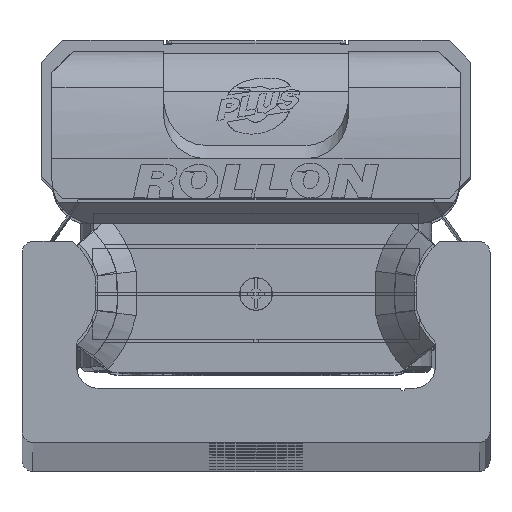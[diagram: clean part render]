
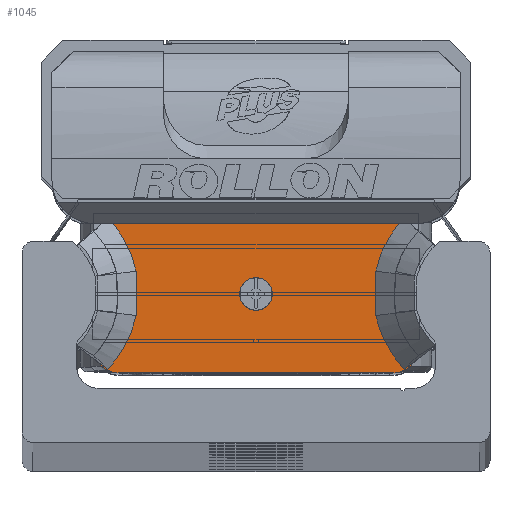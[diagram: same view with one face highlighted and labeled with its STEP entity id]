
A CAD part, top view. The second image highlights one B-rep face of the part: STEP entity #1045.
In plain terms, the highlighted planar face has unit normal (0, 0, 1) as drawn and (0, 0, -1) by its records, which use the part's own axes.
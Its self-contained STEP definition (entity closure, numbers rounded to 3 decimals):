
#1045 = ADVANCED_FACE( '', ( #2594, #2595 ), #2596, .F. );
#2594 = FACE_BOUND( '', #4878, .T. );
#2595 = FACE_OUTER_BOUND( '', #4879, .T. );
#2596 = PLANE( '', #4880 );
#4878 = EDGE_LOOP( '', ( #7892 ) );
#4879 = EDGE_LOOP( '', ( #7893, #7894, #7895, #7896, #7897, #7898, #7899, #7900, #7901, #7902, #7903, #7904 ) );
#4880 = AXIS2_PLACEMENT_3D( '', #7905, #7906, #7907 );
#7892 = ORIENTED_EDGE( '', *, *, #13350, .T. );
#7893 = ORIENTED_EDGE( '', *, *, #13115, .T. );
#7894 = ORIENTED_EDGE( '', *, *, #13081, .F. );
#7895 = ORIENTED_EDGE( '', *, *, #13351, .T. );
#7896 = ORIENTED_EDGE( '', *, *, #13352, .F. );
#7897 = ORIENTED_EDGE( '', *, *, #13353, .T. );
#7898 = ORIENTED_EDGE( '', *, *, #13354, .T. );
#7899 = ORIENTED_EDGE( '', *, *, #13355, .T. );
#7900 = ORIENTED_EDGE( '', *, *, #13356, .T. );
#7901 = ORIENTED_EDGE( '', *, *, #12994, .T. );
#7902 = ORIENTED_EDGE( '', *, *, #13357, .T. );
#7903 = ORIENTED_EDGE( '', *, *, #13358, .T. );
#7904 = ORIENTED_EDGE( '', *, *, #13359, .T. );
#7905 = CARTESIAN_POINT( '', ( 14.9, 7.35, -13.25 ) );
#7906 = DIRECTION( '', ( 0., 0., 1. ) );
#7907 = DIRECTION( '', ( 1., 0., 0. ) );
#12994 = EDGE_CURVE( '', #15454, #15452, #15455, .T. );
#13081 = EDGE_CURVE( '', #15608, #15610, #15611, .T. );
#13115 = EDGE_CURVE( '', #15667, #15610, #15668, .T. );
#13350 = EDGE_CURVE( '', #16074, #16074, #16075, .T. );
#13351 = EDGE_CURVE( '', #15608, #16076, #16077, .T. );
#13352 = EDGE_CURVE( '', #16078, #16076, #16079, .T. );
#13353 = EDGE_CURVE( '', #16078, #16080, #16081, .T. );
#13354 = EDGE_CURVE( '', #16080, #16082, #16083, .T. );
#13355 = EDGE_CURVE( '', #16082, #16084, #16085, .T. );
#13356 = EDGE_CURVE( '', #16084, #15454, #16086, .T. );
#13357 = EDGE_CURVE( '', #15452, #16087, #16088, .T. );
#13358 = EDGE_CURVE( '', #16087, #16089, #16090, .T. );
#13359 = EDGE_CURVE( '', #16089, #15667, #16091, .T. );
#15452 = VERTEX_POINT( '', #18986 );
#15454 = VERTEX_POINT( '', #18991 );
#15455 = LINE( '', #18992, #18993 );
#15608 = VERTEX_POINT( '', #19216 );
#15610 = VERTEX_POINT( '', #19219 );
#15611 = CIRCLE( '', #19220, 2.5 );
#15667 = VERTEX_POINT( '', #19290 );
#15668 = B_SPLINE_CURVE_WITH_KNOTS( '', 1, ( #19291, #19292 ), .UNSPECIFIED., .F., .F., ( 2, 2 ), ( 0., 1. ), .UNSPECIFIED. );
#16074 = VERTEX_POINT( '', #19880 );
#16075 = CIRCLE( '', #19881, 1.5 );
#16076 = VERTEX_POINT( '', #19882 );
#16077 = LINE( '', #19883, #19884 );
#16078 = VERTEX_POINT( '', #19885 );
#16079 = CIRCLE( '', #19886, 2.5 );
#16080 = VERTEX_POINT( '', #19887 );
#16081 = B_SPLINE_CURVE_WITH_KNOTS( '', 1, ( #19888, #19889 ), .UNSPECIFIED., .F., .F., ( 2, 2 ), ( 0., 1. ), .UNSPECIFIED. );
#16082 = VERTEX_POINT( '', #19890 );
#16083 = B_SPLINE_CURVE_WITH_KNOTS( '', 2, ( #19891, #19892, #19893, #19894, #19895 ), .UNSPECIFIED., .F., .F., ( 3, 2, 3 ), ( 0., 0.5, 1. ), .UNSPECIFIED. );
#16084 = VERTEX_POINT( '', #19896 );
#16085 = B_SPLINE_CURVE_WITH_KNOTS( '', 2, ( #19897, #19898, #19899 ), .UNSPECIFIED., .F., .F., ( 3, 3 ), ( 0., 1. ), .UNSPECIFIED. );
#16086 = B_SPLINE_CURVE_WITH_KNOTS( '', 2, ( #19900, #19901, #19902, #19903, #19904 ), .UNSPECIFIED., .F., .F., ( 3, 2, 3 ), ( 0., 0.5, 0.868 ), .UNSPECIFIED. );
#16087 = VERTEX_POINT( '', #19905 );
#16088 = B_SPLINE_CURVE_WITH_KNOTS( '', 2, ( #19906, #19907, #19908, #19909, #19910 ), .UNSPECIFIED., .F., .F., ( 3, 2, 3 ), ( 0.133, 0.5, 1. ), .UNSPECIFIED. );
#16089 = VERTEX_POINT( '', #19911 );
#16090 = B_SPLINE_CURVE_WITH_KNOTS( '', 2, ( #19912, #19913, #19914 ), .UNSPECIFIED., .F., .F., ( 3, 3 ), ( 0., 1. ), .UNSPECIFIED. );
#16091 = B_SPLINE_CURVE_WITH_KNOTS( '', 2, ( #19915, #19916, #19917, #19918, #19919 ), .UNSPECIFIED., .F., .F., ( 3, 2, 3 ), ( 0., 0.5, 1. ), .UNSPECIFIED. );
#18986 = CARTESIAN_POINT( '', ( 13.12, 6.4, -13.25 ) );
#18991 = CARTESIAN_POINT( '', ( -13.119, 6.4, -13.25 ) );
#18992 = CARTESIAN_POINT( '', ( 14.9, 6.4, -13.25 ) );
#18993 = VECTOR( '', #23464, 1000. );
#19216 = CARTESIAN_POINT( '', ( 12.58, -7.3, -13.25 ) );
#19219 = CARTESIAN_POINT( '', ( 14.906, -5.717, -13.25 ) );
#19220 = AXIS2_PLACEMENT_3D( '', #23587, #23588, #23589 );
#19290 = CARTESIAN_POINT( '', ( 13.628, -6.965, -13.25 ) );
#19291 = CARTESIAN_POINT( '', ( 13.628, -6.965, -13.25 ) );
#19292 = CARTESIAN_POINT( '', ( 14.9, -5.728, -13.25 ) );
#19880 = CARTESIAN_POINT( '', ( 1.5, -0.05, -13.25 ) );
#19881 = AXIS2_PLACEMENT_3D( '', #23977, #23978, #23979 );
#19882 = CARTESIAN_POINT( '', ( -12.58, -7.3, -13.25 ) );
#19883 = CARTESIAN_POINT( '', ( 12.58, -7.3, -13.25 ) );
#19884 = VECTOR( '', #23980, 1000. );
#19885 = CARTESIAN_POINT( '', ( -14.904, -5.718, -13.25 ) );
#19886 = AXIS2_PLACEMENT_3D( '', #23981, #23982, #23983 );
#19887 = CARTESIAN_POINT( '', ( -13.628, -6.965, -13.25 ) );
#19888 = CARTESIAN_POINT( '', ( -14.915, -5.713, -13.25 ) );
#19889 = CARTESIAN_POINT( '', ( -13.628, -6.965, -13.25 ) );
#19890 = CARTESIAN_POINT( '', ( -11.012, -2.045, -13.25 ) );
#19891 = CARTESIAN_POINT( '', ( -13.628, -6.965, -13.25 ) );
#19892 = CARTESIAN_POINT( '', ( -12.638, -5.946, -13.25 ) );
#19893 = CARTESIAN_POINT( '', ( -11.97, -4.691, -13.25 ) );
#19894 = CARTESIAN_POINT( '', ( -11.303, -3.437, -13.25 ) );
#19895 = CARTESIAN_POINT( '', ( -11.012, -2.045, -13.25 ) );
#19896 = CARTESIAN_POINT( '', ( -11.012, 2.045, -13.25 ) );
#19897 = CARTESIAN_POINT( '', ( -11.012, -2.045, -13.25 ) );
#19898 = CARTESIAN_POINT( '', ( -10.888, 0., -13.25 ) );
#19899 = CARTESIAN_POINT( '', ( -11.012, 2.045, -13.25 ) );
#19900 = CARTESIAN_POINT( '', ( -11.012, 2.045, -13.25 ) );
#19901 = CARTESIAN_POINT( '', ( -11.302, 3.432, -13.25 ) );
#19902 = CARTESIAN_POINT( '', ( -11.967, 4.685, -13.25 ) );
#19903 = CARTESIAN_POINT( '', ( -12.456, 5.606, -13.25 ) );
#19904 = CARTESIAN_POINT( '', ( -13.119, 6.4, -13.25 ) );
#19905 = CARTESIAN_POINT( '', ( 11.012, 2.045, -13.25 ) );
#19906 = CARTESIAN_POINT( '', ( 13.119, 6.4, -13.25 ) );
#19907 = CARTESIAN_POINT( '', ( 12.459, 5.608, -13.25 ) );
#19908 = CARTESIAN_POINT( '', ( 11.968, 4.684, -13.25 ) );
#19909 = CARTESIAN_POINT( '', ( 11.301, 3.427, -13.25 ) );
#19910 = CARTESIAN_POINT( '', ( 11.012, 2.045, -13.25 ) );
#19911 = CARTESIAN_POINT( '', ( 11.012, -2.045, -13.25 ) );
#19912 = CARTESIAN_POINT( '', ( 11.012, 2.045, -13.25 ) );
#19913 = CARTESIAN_POINT( '', ( 10.888, 0., -13.25 ) );
#19914 = CARTESIAN_POINT( '', ( 11.012, -2.045, -13.25 ) );
#19915 = CARTESIAN_POINT( '', ( 11.012, -2.045, -13.25 ) );
#19916 = CARTESIAN_POINT( '', ( 11.301, -3.43, -13.25 ) );
#19917 = CARTESIAN_POINT( '', ( 11.972, -4.69, -13.25 ) );
#19918 = CARTESIAN_POINT( '', ( 12.642, -5.95, -13.25 ) );
#19919 = CARTESIAN_POINT( '', ( 13.628, -6.965, -13.25 ) );
#23464 = DIRECTION( '', ( 1., 0., 0. ) );
#23587 = CARTESIAN_POINT( '', ( 12.58, -4.8, -13.25 ) );
#23588 = DIRECTION( '', ( 0., 0., 1. ) );
#23589 = DIRECTION( '', ( 1., 0., 0. ) );
#23977 = CARTESIAN_POINT( '', ( 0., -0.05, -13.25 ) );
#23978 = DIRECTION( '', ( 0., 0., 1. ) );
#23979 = DIRECTION( '', ( 1., 0., 0. ) );
#23980 = DIRECTION( '', ( -1., 0., 0. ) );
#23981 = CARTESIAN_POINT( '', ( -12.58, -4.8, -13.25 ) );
#23982 = DIRECTION( '', ( 0., 0., 1. ) );
#23983 = DIRECTION( '', ( 1., 0., 0. ) );
